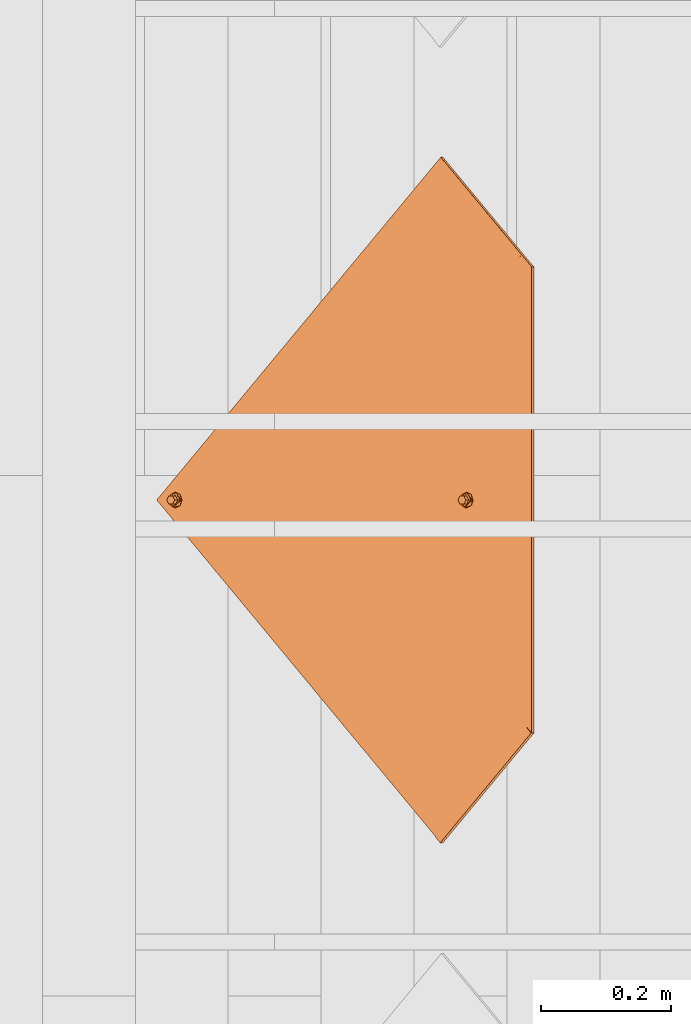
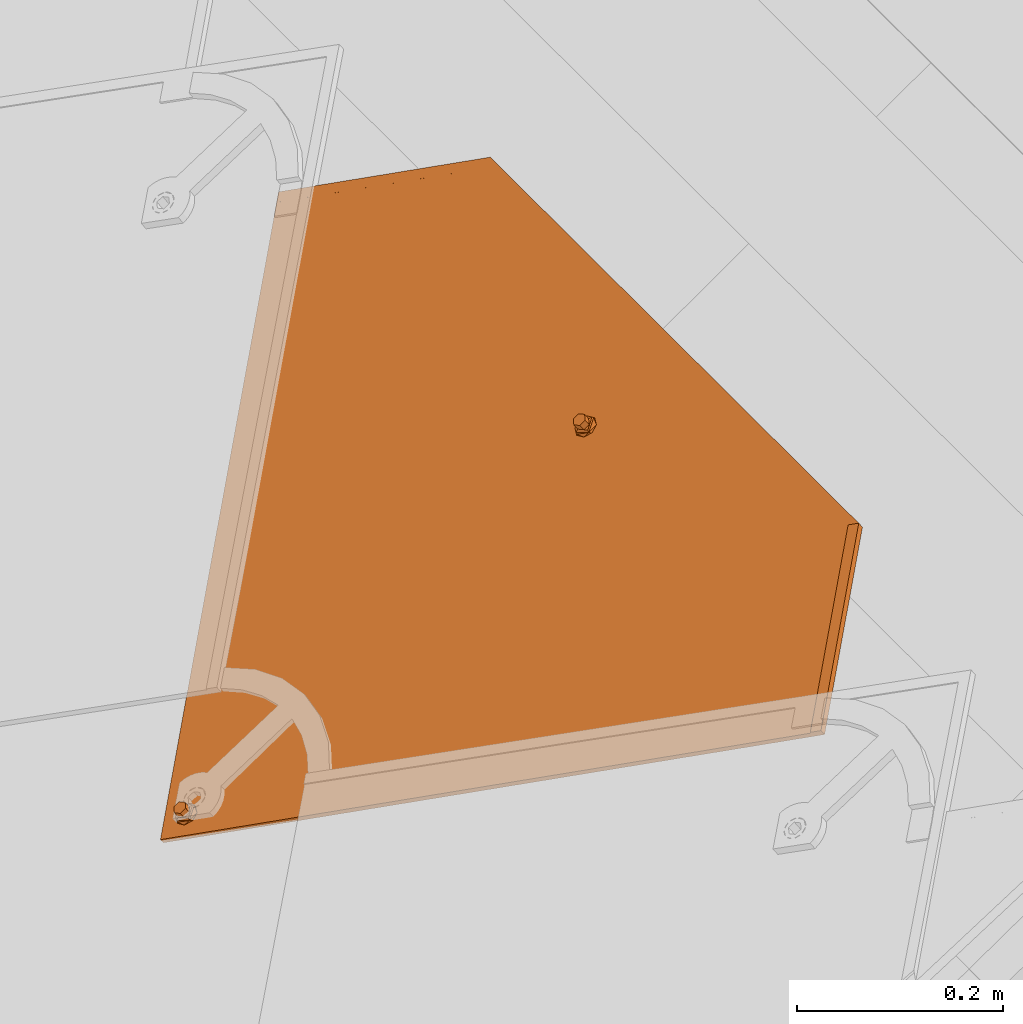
# One storey, part 67 of 151: 1 proxy.
"""IFC2X3 building model written with IfcOpenShell, lengths in millimetres."""

from ifc_helpers import new_model, entity, si_unit, converted_unit, derived_unit, direction, frame, origin, place, context, subcontext, project, spatial, faceted_brep, source, transform, mapped, material, material_list, type_object, type_shapes, element, save


model = new_model("IFC2X3")

# Units and contexts
model_context = context("Model", 3, precision=0.01, world=origin(), true_north=direction((6.12303176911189e-17, 1.0)))
body_context = subcontext(model_context, "Body", "Model", "MODEL_VIEW")
ifc_project = project(units=[si_unit("LENGTHUNIT", "METRE", prefix="MILLI"), si_unit("AREAUNIT", "SQUARE_METRE"), si_unit("VOLUMEUNIT", "CUBIC_METRE"), converted_unit("PLANEANGLEUNIT", "DEGREE", entity("IfcRatioMeasure", 0.0174532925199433), si_unit("PLANEANGLEUNIT", "RADIAN"), dimensions=[0, 0, 0, 0, 0, 0, 0]), si_unit("MASSUNIT", "GRAM", prefix="KILO"), derived_unit("MASSDENSITYUNIT", [(si_unit("MASSUNIT", "GRAM", prefix="KILO"), 1), (si_unit("LENGTHUNIT", "METRE"), -3)]), si_unit("TIMEUNIT", "SECOND"), si_unit("FREQUENCYUNIT", "HERTZ"), si_unit("THERMODYNAMICTEMPERATUREUNIT", "DEGREE_CELSIUS"), derived_unit("THERMALTRANSMITTANCEUNIT", [(si_unit("MASSUNIT", "GRAM", prefix="KILO"), 1), (si_unit("THERMODYNAMICTEMPERATUREUNIT", "KELVIN"), -1), (si_unit("TIMEUNIT", "SECOND"), -3)]), derived_unit("VOLUMETRICFLOWRATEUNIT", [(si_unit("LENGTHUNIT", "METRE"), 3), (si_unit("TIMEUNIT", "SECOND"), -1)]), si_unit("ELECTRICCURRENTUNIT", "AMPERE"), si_unit("ELECTRICVOLTAGEUNIT", "VOLT"), si_unit("POWERUNIT", "WATT"), si_unit("FORCEUNIT", "NEWTON", prefix="KILO"), si_unit("ILLUMINANCEUNIT", "LUX"), si_unit("LUMINOUSFLUXUNIT", "LUMEN"), si_unit("LUMINOUSINTENSITYUNIT", "CANDELA"), derived_unit("USERDEFINED", [(si_unit("MASSUNIT", "GRAM", prefix="KILO"), -1), (si_unit("LENGTHUNIT", "METRE"), -2), (si_unit("TIMEUNIT", "SECOND"), 3), (si_unit("LUMINOUSFLUXUNIT", "LUMEN"), 1)]), derived_unit("LINEARVELOCITYUNIT", [(si_unit("LENGTHUNIT", "METRE"), 1), (si_unit("TIMEUNIT", "SECOND"), -1)]), si_unit("PRESSUREUNIT", "PASCAL"), derived_unit("USERDEFINED", [(si_unit("LENGTHUNIT", "METRE"), -2), (si_unit("MASSUNIT", "GRAM", prefix="KILO"), 1), (si_unit("TIMEUNIT", "SECOND"), -2)])], contexts=[model_context])

# Site, building, storey
site_placement = place(None, origin())
site = spatial("IfcSite", under=ifc_project, at=site_placement, Name="Default", CompositionType="ELEMENT")
building_placement = place(site_placement, origin())
building = spatial("IfcBuilding", under=site, at=building_placement, CompositionType="ELEMENT")
storey_placement = place(building_placement, origin())
storey = spatial("IfcBuildingStorey", under=building, at=storey_placement, Name="Level 1", CompositionType="ELEMENT", Elevation=0.0)

# Proxy
ifc_material_1 = material(Name="Rubber - Sunstyle - Black")
ifc_material_2 = material(Name="Glass - Sunstyle - Tainted Black")
ifc_material_list_1 = material_list([ifc_material_1, ifc_material_2])
ifc_material_list_2 = material_list([ifc_material_1, ifc_material_2])
building_element_proxy_type = type_object("IfcBuildingElementProxyType", Name="Shingle Top - Black", PredefinedType="NOTDEFINED", material=ifc_material_list_2)
shared_shape = source(origin(), body_context, "Body", "Brep", [
    faceted_brep([(-518.396436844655, -96.9865733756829, 16.4476231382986), (-518.396436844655, -96.9614556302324, 17.9474128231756), (-526.881123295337, -88.4767691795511, 17.8053154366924), (-526.881123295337, -88.5018869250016, 16.3055257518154), (-376.996804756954, 61.3404039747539, 13.7960402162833), (-368.512118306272, 52.8557175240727, 13.9381376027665), (-376.996804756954, 61.3655217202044, 15.2958299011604), (-368.512118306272, 52.8808352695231, 15.4379272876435)], [[[0, 1, 2, 3]], [[0, 3, 4, 5]], [[3, 2, 6, 4]], [[2, 1, 7, 6]], [[1, 0, 5, 7]], [[5, 4, 6, 7]]]),
    faceted_brep([(0.166366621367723, -33.6374645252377, -4.47296585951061), (-5.6078362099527, -36.9707346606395, -4.4171418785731), (-5.60783620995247, -36.6024255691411, 17.5747274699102), (0.166366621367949, -33.2691554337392, 17.5189034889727), (-5.60783620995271, -43.6372749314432, -4.30549391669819), (-5.60783620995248, -43.2689658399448, 17.6863754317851), (0.166366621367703, -46.9705450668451, -4.24966993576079), (0.166366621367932, -46.6022359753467, 17.7421994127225), (5.94056945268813, -43.6372749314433, -4.30549391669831), (5.94056945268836, -43.2689658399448, 17.686375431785), (5.94056945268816, -36.9707346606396, -4.41714187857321), (5.94056945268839, -36.6024255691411, 17.5747274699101), (-8.43733754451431, -48.5381935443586, 17.774621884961), (0.16636662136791, -52.1014648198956, 17.8342978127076), (-12.0011084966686, -39.9356957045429, 17.6305514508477), (-8.43733754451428, -31.3331978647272, 17.4864810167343), (0.166366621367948, -27.7699265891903, 17.4268050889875), (8.77007078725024, -31.3331978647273, 17.4864810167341), (12.3338417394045, -39.935695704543, 17.6305514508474), (8.77007078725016, -48.5381935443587, 17.7746218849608), (-11.1578780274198, -37.6406185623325, 19.9433933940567), (-9.59010793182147, -39.8646808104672, 21.8708760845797), (0.166366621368, -32.5516055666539, 22.5035764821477), (0.166366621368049, -31.3111079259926, 21.9232298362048), (0.166366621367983, -29.1535570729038, 20.9138547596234), (0.166366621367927, -51.5454208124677, 19.1093557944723), (0.166366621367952, -50.6018442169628, 21.273060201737), (0.166366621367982, -47.1524685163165, 22.7481046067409), (0.166366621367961, -28.2829626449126, 18.7197675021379), (-6.15687907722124, -43.5022527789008, 22.6869725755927), (-6.15687907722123, -36.2018213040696, 22.5647085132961), (11.4906112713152, -42.1520387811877, 20.0189484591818), (10.0152467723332, -40.9390872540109, 21.7920079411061), (6.48961231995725, -36.2018213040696, 22.564708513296), (6.48961231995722, -43.5022527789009, 22.6869725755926), (-6.15687907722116, -43.3682243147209, 30.68986075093), (0.166366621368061, -47.0184400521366, 30.7509927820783), (0.166366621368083, -39.7180085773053, 30.6287287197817), (-6.15687907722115, -36.0677928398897, 30.5675966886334), (6.48961231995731, -43.368224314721, 30.6898607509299), (6.48961231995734, -36.0677928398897, 30.5675966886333), (0.166366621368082, -32.417577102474, 30.5064646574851), (0.166366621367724, -40.3040047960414, -4.36131789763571)], [[[0, 1, 2, 3]], [[1, 4, 5, 2]], [[4, 6, 7, 5]], [[6, 8, 9, 7]], [[8, 10, 11, 9]], [[10, 0, 3, 11]], [[12, 7, 13]], [[7, 12, 5]], [[14, 5, 12]], [[5, 14, 2]], [[15, 2, 14]], [[3, 2, 15]], [[15, 16, 3]], [[16, 17, 3]], [[11, 3, 17]], [[11, 17, 18]], [[9, 11, 18]], [[18, 19, 9]], [[7, 9, 19]], [[19, 13, 7]], [[20, 14, 12]], [[21, 22, 23, 24]], [[24, 20, 21]], [[25, 20, 12]], [[26, 27, 21]], [[15, 14, 20]], [[12, 13, 25]], [[20, 28, 15]], [[28, 20, 24]], [[21, 27, 29]], [[21, 29, 30]], [[26, 21, 20]], [[20, 25, 26]], [[15, 28, 16]], [[21, 30, 22]], [[31, 18, 17]], [[28, 31, 17]], [[32, 27, 26]], [[26, 31, 32]], [[26, 25, 31]], [[25, 19, 31]], [[17, 16, 28]], [[31, 19, 18]], [[24, 31, 28]], [[33, 34, 32]], [[23, 22, 33]], [[24, 32, 31]], [[27, 32, 34]], [[32, 23, 33]], [[19, 25, 13]], [[32, 24, 23]], [[35, 36, 37]], [[37, 38, 35]], [[36, 39, 37]], [[40, 37, 39]], [[37, 40, 41]], [[37, 41, 38]], [[42, 6, 4]], [[4, 1, 42]], [[1, 0, 42]], [[42, 8, 6]], [[0, 10, 42]], [[8, 42, 10]], [[22, 30, 38, 41]], [[30, 29, 35, 38]], [[29, 27, 36, 35]], [[27, 34, 39, 36]], [[34, 33, 40, 39]], [[33, 22, 41, 40]]]),
    faceted_brep([(0.0, -573.927138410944, 4.00636906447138), (-5.77420283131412, -577.260408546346, 4.0621930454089), (-5.77420283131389, -576.892099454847, 26.0540623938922), (0.0, -573.558829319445, 25.9982384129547), (-5.77420283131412, -583.926948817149, 4.1738410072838), (-5.7742028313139, -583.558639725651, 26.1657103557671), (0.0, -587.260218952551, 4.2296649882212), (0.0, -586.891909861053, 26.2215343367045), (5.77420283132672, -583.926948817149, 4.17384100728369), (5.77420283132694, -583.558639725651, 26.165710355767), (5.77420283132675, -577.260408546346, 4.06219304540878), (5.77420283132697, -576.892099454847, 26.0540623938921), (-8.60370416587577, -588.827867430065, 26.253956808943), (0.0, -592.391138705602, 26.3136327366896), (-12.1674751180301, -580.225369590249, 26.1098863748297), (-8.60370416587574, -571.622871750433, 25.9658159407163), (0.0, -568.059600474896, 25.9061400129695), (8.60370416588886, -571.622871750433, 25.9658159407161), (12.1674751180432, -580.225369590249, 26.1098863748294), (8.60370416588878, -588.827867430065, 26.2539568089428), (-11.3242446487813, -577.930292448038, 28.4227283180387), (-9.75647455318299, -580.154354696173, 30.3502110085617), (0.0, -572.84127945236, 30.9829114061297), (0.0, -571.600781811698, 30.4025647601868), (0.0, -569.44323095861, 29.3931896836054), (0.0, -591.835094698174, 27.5886907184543), (0.0, -590.891518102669, 29.752395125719), (0.0, -587.442142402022, 31.227439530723), (0.0, -568.572636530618, 27.1991024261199), (-6.32324569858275, -583.791926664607, 31.1663074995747), (-6.32324569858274, -576.491495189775, 31.0440434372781), (11.3242446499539, -582.441712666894, 28.4982833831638), (9.84888015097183, -581.228761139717, 30.2713428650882), (6.32324569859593, -576.491495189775, 31.044043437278), (6.32324569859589, -583.791926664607, 31.1663074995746), (-6.32324569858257, -583.657898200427, 39.169195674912), (0.0, -587.308113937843, 39.2303277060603), (0.0, -580.007682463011, 39.1080636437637), (-6.32324569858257, -576.357466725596, 39.0469316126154), (6.32324569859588, -583.657898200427, 39.1691956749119), (6.32324569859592, -576.357466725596, 39.0469316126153), (0.0, -572.70725098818, 38.9857995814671), (0.0, -580.593678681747, 4.11801702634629)], [[[0, 1, 2, 3]], [[1, 4, 5, 2]], [[4, 6, 7, 5]], [[6, 8, 9, 7]], [[8, 10, 11, 9]], [[10, 0, 3, 11]], [[12, 7, 13]], [[7, 12, 5]], [[14, 5, 12]], [[5, 14, 2]], [[15, 2, 14]], [[3, 2, 15]], [[15, 16, 3]], [[16, 17, 3]], [[11, 3, 17]], [[11, 17, 18]], [[9, 11, 18]], [[18, 19, 9]], [[7, 9, 19]], [[19, 13, 7]], [[20, 14, 12]], [[21, 22, 23, 24]], [[24, 20, 21]], [[25, 20, 12]], [[26, 27, 21]], [[15, 14, 20]], [[12, 13, 25]], [[20, 28, 15]], [[28, 20, 24]], [[21, 27, 29]], [[21, 29, 30]], [[26, 21, 20]], [[20, 25, 26]], [[15, 28, 16]], [[21, 30, 22]], [[31, 18, 17]], [[28, 31, 17]], [[32, 27, 26]], [[26, 31, 32]], [[26, 25, 31]], [[25, 19, 31]], [[17, 16, 28]], [[31, 19, 18]], [[24, 31, 28]], [[33, 34, 32]], [[23, 22, 33]], [[24, 32, 31]], [[27, 32, 34]], [[32, 23, 33]], [[19, 25, 13]], [[32, 24, 23]], [[35, 36, 37]], [[37, 38, 35]], [[36, 39, 37]], [[40, 37, 39]], [[37, 40, 41]], [[37, 41, 38]], [[42, 6, 4]], [[4, 1, 42]], [[1, 0, 42]], [[42, 8, 6]], [[0, 10, 42]], [[8, 42, 10]], [[22, 30, 38, 41]], [[30, 29, 35, 38]], [[29, 27, 36, 35]], [[27, 34, 39, 36]], [[34, 33, 40, 39]], [[33, 22, 41, 40]]]),
    faceted_brep([(518.482751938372, -96.8754983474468, 17.9260478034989), (526.967438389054, -88.3908118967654, 17.7839504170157), (526.967438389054, -88.3656941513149, 19.2837401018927), (518.482751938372, -96.8503806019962, 19.4258374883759), (349.749400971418, 71.8105397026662, 15.1009763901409), (358.234087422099, 80.2952261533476, 14.9588790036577), (358.234087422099, 80.3203438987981, 16.4586686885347), (349.749400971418, 71.8356574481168, 16.6007660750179)], [[[0, 1, 2, 3]], [[1, 0, 4, 5]], [[2, 1, 5, 6]], [[3, 2, 6, 7]], [[0, 3, 7, 4]], [[4, 7, 6, 5]]]),
    faceted_brep([(358.234087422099, 80.2952261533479, 14.9588790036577), (6.94661128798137, -35.8890860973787, 16.9046771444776), (7.74581466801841, -37.8182632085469, 16.9369860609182), (5.67526230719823, -34.2324641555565, 16.8769328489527), (8.01840805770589, -39.8885252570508, 16.9716577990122), (7.74581466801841, -41.9587873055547, 17.0063295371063), (6.94661128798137, -43.8879644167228, 17.0386384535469), (526.967438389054, -88.3908118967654, 17.7839504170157), (4.01840805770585, -32.9612934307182, 16.855643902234), (2.08896041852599, -32.1622021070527, 16.8422611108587), (0.0184080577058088, -31.8896469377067, 16.8376964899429), (-358.233442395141, 80.2952261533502, 14.9588790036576), (-2.05214430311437, -32.1622021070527, 16.8422611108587), (-3.98159194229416, -32.9612934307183, 16.855643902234), (-5.63844619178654, -34.2324641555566, 16.8769328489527), (-6.90979517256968, -35.8890860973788, 16.9046771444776), (-7.70899855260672, -37.8182632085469, 16.9369860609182), (-7.98159194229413, -39.8885252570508, 16.9716577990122), (-7.70899855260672, -41.9587873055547, 17.0063295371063), (-6.90979517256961, -43.8879644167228, 17.0386384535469), (-526.966793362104, -88.390811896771, 17.7839504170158), (-5.63844619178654, -45.544586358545, 17.0663827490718), (-5.6568542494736, -574.226981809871, 25.9204974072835), (-6.92820323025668, -575.883603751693, 25.9482417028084), (-7.72740661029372, -577.812780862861, 25.980550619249), (-8.0, -579.883042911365, 26.015222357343), (-7.72740661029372, -581.953304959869, 26.049894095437), (0.000322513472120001, -615.210165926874, 26.6068637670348), (7.72740661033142, -581.953304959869, 26.049894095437), (6.92820323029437, -583.882482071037, 26.0822030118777), (5.65685424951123, -585.53910401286, 26.1099473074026), (4.0, -586.810274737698, 26.1312362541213), (2.070552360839, -587.609366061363, 26.1446190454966), (0.0, -587.881921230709, 26.1491836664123), (-2.0705523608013, -587.609366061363, 26.1446190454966), (-4.0, -586.810274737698, 26.1312362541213), (-5.65685424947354, -585.53910401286, 26.1099473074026), (-6.92820323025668, -583.882482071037, 26.0822030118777), (-4.0, -572.955811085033, 25.8992084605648), (-3.98159194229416, -46.8157570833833, 17.0876716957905), (-2.07055236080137, -572.156719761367, 25.8858256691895), (-2.05214430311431, -47.614848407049, 17.1010544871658), (0.0, -571.884164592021, 25.8812610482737), (0.0184080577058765, -47.8874035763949, 17.1056191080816), (2.07055236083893, -572.156719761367, 25.8858256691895), (2.08896041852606, -47.6148484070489, 17.1010544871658), (4.0, -572.955811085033, 25.8992084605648), (4.01840805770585, -46.8157570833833, 17.0876716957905), (5.65685424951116, -574.226981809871, 25.9204974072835), (5.67526230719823, -45.544586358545, 17.0663827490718), (6.92820323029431, -575.883603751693, 25.9482417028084), (7.72740661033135, -577.812780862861, 25.980550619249), (8.0, -579.883042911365, 26.015222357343), (-358.233442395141, 80.1947551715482, 8.9597202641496), (-6.90979517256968, -35.9895570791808, 10.9055184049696), (-7.70899855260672, -37.9187341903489, 10.9378273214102), (-5.63844619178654, -34.3329351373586, 10.8777741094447), (-7.98159194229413, -39.9889962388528, 10.9724990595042), (-7.70899855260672, -42.0592582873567, 11.0071707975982), (-6.90979517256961, -43.9884353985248, 11.0394797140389), (-526.966793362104, -88.4912828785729, 11.7847916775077), (-3.98159194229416, -33.0617644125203, 10.856485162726), (-2.05214430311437, -32.2626730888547, 10.8431023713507), (0.0184080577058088, -31.9901179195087, 10.8385377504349), (358.234087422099, 80.1947551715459, 8.95972026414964), (2.08896041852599, -32.2626730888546, 10.8431023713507), (4.01840805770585, -33.0617644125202, 10.856485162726), (5.67526230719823, -34.3329351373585, 10.8777741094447), (6.94661128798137, -35.9895570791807, 10.9055184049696), (7.74581466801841, -37.9187341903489, 10.9378273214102), (8.01840805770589, -39.9889962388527, 10.9724990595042), (7.74581466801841, -42.0592582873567, 11.0071707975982), (6.94661128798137, -43.9884353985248, 11.0394797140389), (526.967438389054, -88.4912828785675, 11.7847916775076), (5.67526230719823, -45.645057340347, 11.0672240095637), (5.65685424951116, -574.327452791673, 19.9213386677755), (6.92820323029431, -575.984074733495, 19.9490829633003), (7.72740661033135, -577.913251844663, 19.981391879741), (8.0, -579.983513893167, 20.016063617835), (7.72740661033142, -582.053775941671, 20.050735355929), (0.000322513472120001, -615.310636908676, 20.6077050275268), (-7.72740661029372, -582.053775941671, 20.050735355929), (-6.92820323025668, -583.982953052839, 20.0830442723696), (-5.65685424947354, -585.639574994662, 20.1107885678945), (-4.0, -586.9107457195, 20.1320775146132), (-2.0705523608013, -587.709837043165, 20.1454603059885), (0.0, -587.982392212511, 20.1500249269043), (2.070552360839, -587.709837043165, 20.1454603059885), (4.0, -586.9107457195, 20.1320775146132), (5.65685424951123, -585.639574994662, 20.1107885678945), (6.92820323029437, -583.982953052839, 20.0830442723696), (4.01840805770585, -46.9162280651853, 11.0885129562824), (4.0, -573.056282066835, 19.9000497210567), (2.08896041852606, -47.7153193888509, 11.1018957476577), (2.07055236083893, -572.257190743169, 19.8866669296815), (0.0184080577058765, -47.9878745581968, 11.1064603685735), (0.0, -571.984635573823, 19.8821023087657), (-2.05214430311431, -47.7153193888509, 11.1018957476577), (-2.07055236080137, -572.257190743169, 19.8866669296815), (-3.98159194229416, -46.9162280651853, 11.0885129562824), (-4.0, -573.056282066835, 19.9000497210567), (-5.63844619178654, -45.645057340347, 11.0672240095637), (-5.6568542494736, -574.327452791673, 19.9213386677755), (-6.92820323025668, -575.984074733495, 19.9490829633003), (-7.72740661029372, -577.913251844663, 19.981391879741), (-8.0, -579.983513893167, 20.016063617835)], [[[0, 1, 2]], [[1, 0, 3]], [[0, 2, 4]], [[4, 5, 0]], [[5, 6, 0]], [[7, 0, 6]], [[8, 3, 0]], [[9, 8, 0]], [[10, 9, 0]], [[0, 11, 10]], [[12, 10, 11]], [[13, 12, 11]], [[14, 13, 11]], [[11, 15, 14]], [[15, 11, 16]], [[16, 11, 17]], [[11, 18, 17]], [[18, 11, 19]], [[11, 20, 19]], [[19, 20, 21]], [[20, 22, 21]], [[23, 22, 20]], [[24, 23, 20]], [[24, 20, 25]], [[26, 25, 20]], [[27, 26, 20]], [[7, 28, 27]], [[29, 27, 28]], [[27, 29, 30]], [[30, 31, 27]], [[31, 32, 27]], [[27, 32, 33]], [[27, 33, 34]], [[34, 35, 27]], [[27, 35, 36]], [[36, 37, 27]], [[37, 26, 27]], [[38, 21, 22]], [[38, 39, 21]], [[38, 40, 39]], [[40, 41, 39]], [[40, 42, 41]], [[41, 42, 43]], [[44, 43, 42]], [[44, 45, 43]], [[45, 44, 46]], [[46, 47, 45]], [[46, 48, 47]], [[48, 49, 47]], [[50, 7, 48]], [[48, 7, 49]], [[7, 50, 51]], [[7, 51, 52]], [[52, 28, 7]], [[7, 6, 49]], [[53, 54, 55]], [[54, 53, 56]], [[53, 55, 57]], [[58, 53, 57]], [[59, 53, 58]], [[60, 53, 59]], [[61, 56, 53]], [[62, 61, 53]], [[53, 63, 62]], [[63, 53, 64]], [[65, 63, 64]], [[66, 65, 64]], [[64, 67, 66]], [[67, 64, 68]], [[68, 64, 69]], [[70, 69, 64]], [[71, 70, 64]], [[72, 71, 64]], [[72, 64, 73]], [[72, 73, 74]], [[74, 73, 75]], [[73, 76, 75]], [[76, 73, 77]], [[77, 73, 78]], [[79, 78, 73]], [[79, 73, 80]], [[60, 81, 80]], [[80, 81, 82]], [[80, 82, 83]], [[83, 84, 80]], [[84, 85, 80]], [[85, 86, 80]], [[80, 86, 87]], [[80, 87, 88]], [[80, 88, 89]], [[79, 80, 90]], [[80, 89, 90]], [[75, 91, 74]], [[75, 92, 91]], [[92, 93, 91]], [[93, 92, 94]], [[93, 94, 95]], [[96, 95, 94]], [[97, 95, 96]], [[96, 98, 97]], [[98, 99, 97]], [[98, 100, 99]], [[100, 101, 99]], [[100, 102, 101]], [[60, 101, 102]], [[103, 60, 102]], [[103, 104, 60]], [[104, 105, 60]], [[105, 81, 60]], [[59, 101, 60]], [[27, 20, 60, 80]], [[7, 27, 80, 73]], [[0, 7, 73, 64]], [[25, 105, 104, 24]], [[24, 104, 103, 23]], [[38, 22, 102, 100]], [[102, 22, 23, 103]], [[40, 38, 100, 98]], [[40, 98, 96, 42]], [[42, 96, 94, 44]], [[44, 94, 92, 46]], [[50, 48, 75, 76]], [[75, 48, 46, 92]], [[51, 50, 76, 77]], [[51, 77, 78, 52]], [[52, 78, 79, 28]], [[28, 79, 90, 29]], [[31, 30, 89, 88]], [[29, 90, 89, 30]], [[87, 32, 31, 88]], [[32, 87, 86, 33]], [[34, 33, 86, 85]], [[34, 85, 84, 35]], [[37, 36, 83, 82]], [[35, 84, 83, 36]], [[37, 82, 81, 26]], [[26, 81, 105, 25]], [[17, 57, 55, 16]], [[16, 55, 54, 15]], [[13, 14, 56, 61]], [[56, 14, 15, 54]], [[12, 13, 61, 62]], [[12, 62, 63, 10]], [[10, 63, 65, 9]], [[9, 65, 66, 8]], [[1, 3, 67, 68]], [[67, 3, 8, 66]], [[2, 1, 68, 69]], [[2, 69, 70, 4]], [[4, 70, 71, 5]], [[5, 71, 72, 6]], [[47, 49, 74, 91]], [[74, 49, 6, 72]], [[45, 47, 91, 93]], [[45, 93, 95, 43]], [[43, 95, 97, 41]], [[41, 97, 99, 39]], [[19, 21, 101, 59]], [[101, 21, 39, 99]], [[18, 19, 59, 58]], [[18, 58, 57, 17]], [[11, 0, 64, 53]], [[20, 11, 53, 60]]]),
])
type_shapes(building_element_proxy_type, [shared_shape])
proxy_placement = place(storey_placement, frame((802.325853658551, 1417.54507230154, 2507.06484702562), z_axis=(-0.57357643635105, 0.0, 0.819152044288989), x_axis=(0.0, -1.0, 0.0)))
element("IfcBuildingElementProxy", 1, at=proxy_placement, inside=storey, type_object=building_element_proxy_type, material=ifc_material_list_1, Name="Roofing_Panels_SunStyle_Tile_Shingle-Top:Shingle Top - Black", ObjectType="Roofing_Panels_SunStyle_Tile_Shingle-Top:Shingle Top - Black", context=body_context, shape_type="MappedRepresentation", body=[
    mapped(shared_shape, transform((0.0, 0.0, 0.0), scale=1.0)),
])

save(model, "model.ifc")
